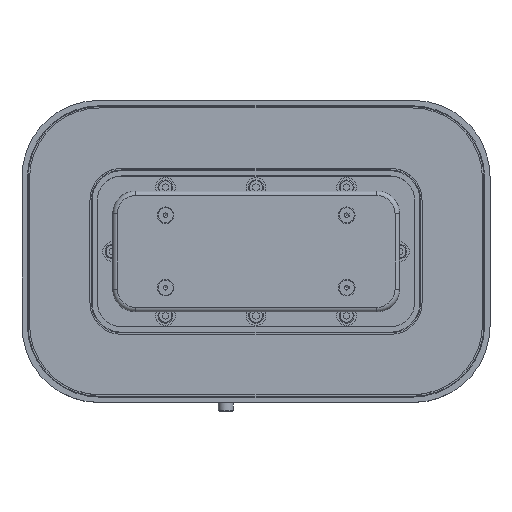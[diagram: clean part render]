
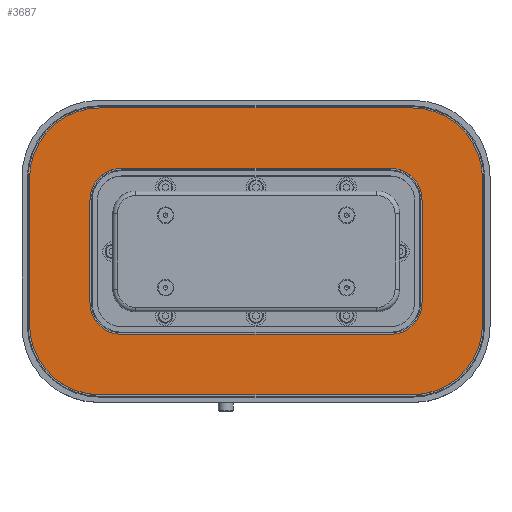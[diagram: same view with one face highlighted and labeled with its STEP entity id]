
A CAD part, top view. The second image highlights one B-rep face of the part: STEP entity #3687.
In plain terms, the highlighted planar face has unit normal (0, 0, 1).
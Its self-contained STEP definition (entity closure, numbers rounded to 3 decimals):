
#3687=ADVANCED_FACE('',(#7646,#7647),#7648,.T.);
#7646=FACE_OUTER_BOUND('',#13004,.T.);
#7647=FACE_BOUND('',#13005,.T.);
#7648=PLANE('',#13006);
#13004=EDGE_LOOP('',(#18492,#18493,#18494,#18495,#18496,#18497,#18498,#18499));
#13005=EDGE_LOOP('',(#18500,#18501,#18502,#18503,#18504,#18505,#18506,#18507));
#13006=AXIS2_PLACEMENT_3D('',#18508,#18509,#18510);
#18492=ORIENTED_EDGE('',*,*,#29380,.T.);
#18493=ORIENTED_EDGE('',*,*,#29375,.T.);
#18494=ORIENTED_EDGE('',*,*,#29381,.T.);
#18495=ORIENTED_EDGE('',*,*,#29365,.T.);
#18496=ORIENTED_EDGE('',*,*,#29382,.T.);
#18497=ORIENTED_EDGE('',*,*,#29370,.T.);
#18498=ORIENTED_EDGE('',*,*,#29383,.T.);
#18499=ORIENTED_EDGE('',*,*,#29384,.T.);
#18500=ORIENTED_EDGE('',*,*,#29385,.T.);
#18501=ORIENTED_EDGE('',*,*,#29386,.T.);
#18502=ORIENTED_EDGE('',*,*,#29387,.T.);
#18503=ORIENTED_EDGE('',*,*,#29388,.T.);
#18504=ORIENTED_EDGE('',*,*,#29389,.T.);
#18505=ORIENTED_EDGE('',*,*,#29390,.T.);
#18506=ORIENTED_EDGE('',*,*,#29391,.T.);
#18507=ORIENTED_EDGE('',*,*,#29392,.T.);
#18508=CARTESIAN_POINT('',(-196.164,-306.171,132.0));
#18509=DIRECTION('',(0.0,0.0,1.0));
#18510=DIRECTION('',(1.0,0.0,0.0));
#29365=EDGE_CURVE('',#33868,#33869,#33870,.T.);
#29370=EDGE_CURVE('',#33877,#33878,#33879,.T.);
#29375=EDGE_CURVE('',#33886,#33887,#33888,.T.);
#29380=EDGE_CURVE('',#33895,#33886,#33896,.T.);
#29381=EDGE_CURVE('',#33887,#33868,#33897,.T.);
#29382=EDGE_CURVE('',#33869,#33877,#33898,.T.);
#29383=EDGE_CURVE('',#33878,#33899,#33900,.T.);
#29384=EDGE_CURVE('',#33899,#33895,#33901,.T.);
#29385=EDGE_CURVE('',#33902,#33903,#33904,.T.);
#29386=EDGE_CURVE('',#33903,#33905,#33906,.F.);
#29387=EDGE_CURVE('',#33905,#33907,#33908,.T.);
#29388=EDGE_CURVE('',#33907,#33909,#33910,.F.);
#29389=EDGE_CURVE('',#33909,#33911,#33912,.T.);
#29390=EDGE_CURVE('',#33911,#33913,#33914,.F.);
#29391=EDGE_CURVE('',#33913,#33915,#33916,.T.);
#29392=EDGE_CURVE('',#33915,#33902,#33917,.F.);
#33868=VERTEX_POINT('',#40310);
#33869=VERTEX_POINT('',#40311);
#33870=CIRCLE('',#40312,46.5);
#33877=VERTEX_POINT('',#40321);
#33878=VERTEX_POINT('',#40322);
#33879=CIRCLE('',#40323,46.5);
#33886=VERTEX_POINT('',#40332);
#33887=VERTEX_POINT('',#40333);
#33888=CIRCLE('',#40334,46.5);
#33895=VERTEX_POINT('',#40343);
#33896=LINE('',#40344,#40345);
#33897=LINE('',#40346,#40347);
#33898=LINE('',#40348,#40349);
#33899=VERTEX_POINT('',#40350);
#33900=LINE('',#40351,#40352);
#33901=CIRCLE('',#40353,46.5);
#33902=VERTEX_POINT('',#40354);
#33903=VERTEX_POINT('',#40355);
#33904=LINE('',#40356,#40357);
#33905=VERTEX_POINT('',#40358);
#33906=CIRCLE('',#40359,21.0);
#33907=VERTEX_POINT('',#40360);
#33908=LINE('',#40361,#40362);
#33909=VERTEX_POINT('',#40363);
#33910=CIRCLE('',#40364,21.0);
#33911=VERTEX_POINT('',#40365);
#33912=LINE('',#40366,#40367);
#33913=VERTEX_POINT('',#40368);
#33914=CIRCLE('',#40369,21.0);
#33915=VERTEX_POINT('',#40370);
#33916=LINE('',#40371,#40372);
#33917=CIRCLE('',#40373,21.0);
#40310=CARTESIAN_POINT('',(57.336,-306.171,132.0));
#40311=CARTESIAN_POINT('',(103.836,-259.671,132.0));
#40312=AXIS2_PLACEMENT_3D('',#48787,#48788,#48789);
#40321=CARTESIAN_POINT('',(103.836,-162.671,132.0));
#40322=CARTESIAN_POINT('',(57.336,-116.171,132.0));
#40323=AXIS2_PLACEMENT_3D('',#48795,#48796,#48797);
#40332=CARTESIAN_POINT('',(-196.164,-259.671,132.0));
#40333=CARTESIAN_POINT('',(-149.664,-306.171,132.0));
#40334=AXIS2_PLACEMENT_3D('',#48803,#48804,#48805);
#40343=CARTESIAN_POINT('',(-196.164,-162.671,132.0));
#40344=CARTESIAN_POINT('',(-196.164,-116.171,132.0));
#40345=VECTOR('',#48811,1.0);
#40346=CARTESIAN_POINT('',(-196.164,-306.171,132.0));
#40347=VECTOR('',#48812,1.0);
#40348=CARTESIAN_POINT('',(103.836,-306.171,132.0));
#40349=VECTOR('',#48813,1.0);
#40350=CARTESIAN_POINT('',(-149.664,-116.171,132.0));
#40351=CARTESIAN_POINT('',(103.836,-116.171,132.0));
#40352=VECTOR('',#48814,1.0);
#40353=AXIS2_PLACEMENT_3D('',#48815,#48816,#48817);
#40354=CARTESIAN_POINT('',(63.836,-177.171,132.0));
#40355=CARTESIAN_POINT('',(63.836,-245.171,132.0));
#40356=CARTESIAN_POINT('',(63.836,-156.171,132.0));
#40357=VECTOR('',#48818,1.0);
#40358=CARTESIAN_POINT('',(42.836,-266.171,132.0));
#40359=AXIS2_PLACEMENT_3D('',#48819,#48820,#48821);
#40360=CARTESIAN_POINT('',(-135.164,-266.171,132.0));
#40361=CARTESIAN_POINT('',(63.836,-266.171,132.0));
#40362=VECTOR('',#48822,1.0);
#40363=CARTESIAN_POINT('',(-156.164,-245.171,132.0));
#40364=AXIS2_PLACEMENT_3D('',#48823,#48824,#48825);
#40365=CARTESIAN_POINT('',(-156.164,-177.171,132.0));
#40366=CARTESIAN_POINT('',(-156.164,-266.171,132.0));
#40367=VECTOR('',#48826,1.0);
#40368=CARTESIAN_POINT('',(-135.164,-156.171,132.0));
#40369=AXIS2_PLACEMENT_3D('',#48827,#48828,#48829);
#40370=CARTESIAN_POINT('',(42.836,-156.171,132.0));
#40371=CARTESIAN_POINT('',(-156.164,-156.171,132.0));
#40372=VECTOR('',#48830,1.0);
#40373=AXIS2_PLACEMENT_3D('',#48831,#48832,#48833);
#48787=CARTESIAN_POINT('',(57.336,-259.671,132.0));
#48788=DIRECTION('',(0.0,0.0,1.0));
#48789=DIRECTION('',(1.0,0.0,0.0));
#48795=CARTESIAN_POINT('',(57.336,-162.671,132.0));
#48796=DIRECTION('',(0.0,0.0,1.0));
#48797=DIRECTION('',(1.0,0.0,0.0));
#48803=CARTESIAN_POINT('',(-149.664,-259.671,132.0));
#48804=DIRECTION('',(0.0,0.0,1.0));
#48805=DIRECTION('',(1.0,0.0,0.0));
#48811=DIRECTION('',(0.0,-1.0,0.0));
#48812=DIRECTION('',(1.0,0.0,0.0));
#48813=DIRECTION('',(0.0,1.0,0.0));
#48814=DIRECTION('',(-1.0,0.0,0.0));
#48815=CARTESIAN_POINT('',(-149.664,-162.671,132.0));
#48816=DIRECTION('',(0.0,0.0,1.0));
#48817=DIRECTION('',(1.0,0.0,0.0));
#48818=DIRECTION('',(0.0,-1.0,0.0));
#48819=CARTESIAN_POINT('',(42.836,-245.171,132.0));
#48820=DIRECTION('',(0.0,0.0,1.0));
#48821=DIRECTION('',(1.0,0.0,0.0));
#48822=DIRECTION('',(-1.0,0.0,0.0));
#48823=CARTESIAN_POINT('',(-135.164,-245.171,132.0));
#48824=DIRECTION('',(0.0,0.0,1.0));
#48825=DIRECTION('',(1.0,0.0,0.0));
#48826=DIRECTION('',(0.0,1.0,0.0));
#48827=CARTESIAN_POINT('',(-135.164,-177.171,132.0));
#48828=DIRECTION('',(0.0,0.0,1.0));
#48829=DIRECTION('',(1.0,0.0,0.0));
#48830=DIRECTION('',(1.0,0.0,0.0));
#48831=CARTESIAN_POINT('',(42.836,-177.171,132.0));
#48832=DIRECTION('',(0.0,0.0,1.0));
#48833=DIRECTION('',(1.0,0.0,0.0));
